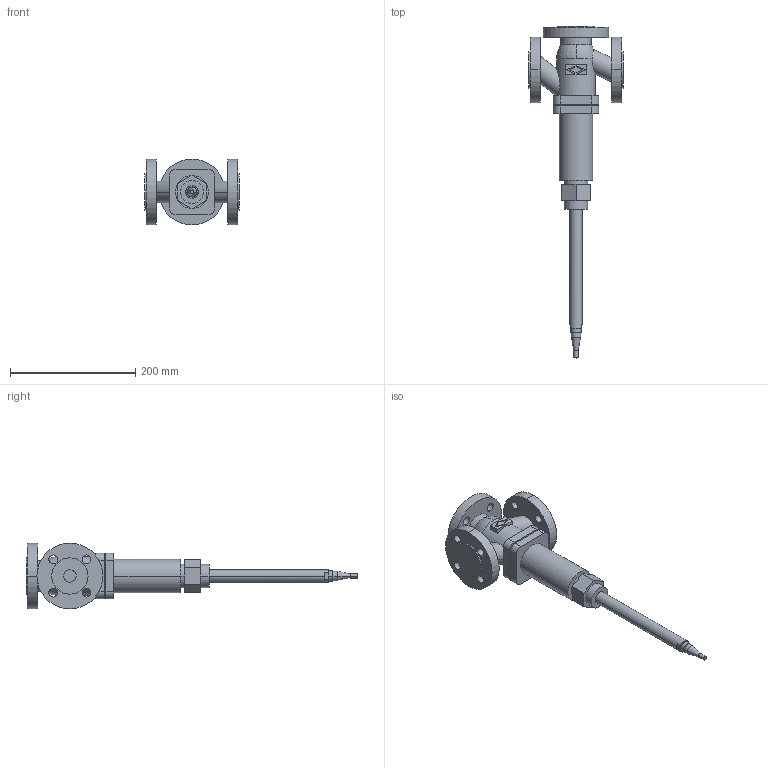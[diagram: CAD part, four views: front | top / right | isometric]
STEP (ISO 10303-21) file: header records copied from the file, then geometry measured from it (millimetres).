
FILE_DESCRIPTION( ( '' ), '1' );
FILE_NAME( 'F:/DE-SHS/TB/OR/04-Sonstiges/daten/files_3d/773-Mischventil/773-Mischventil_PN40/c000006178.stp', '2016-04-11T09:10:32', ( '' ), ( '' ), ' ', ' ', ' ' );
FILE_SCHEMA( ( 'CONFIG_CONTROL_DESIGN' ) );
Length unit declared in the file: millimetre
Products named in the file (1): 1
Bounding box: 150 x 529.44 x 105 mm (x, y, z)
Volume: 1238978.9 mm3; surface area: 153056.2 mm2
Topology: 1 solids, 1 shells, 136 faces, 334 edges, 222 vertices
Faces by surface type: cylinder 72, plane 60, torus 2, cone 2
Entity records: 4464 total; most frequent: CARTESIAN_POINT 995, DIRECTION 762, ORIENTED_EDGE 668, EDGE_CURVE 334, AXIS2_PLACEMENT_3D 297, VERTEX_POINT 222, EDGE_LOOP 182, LINE 168
